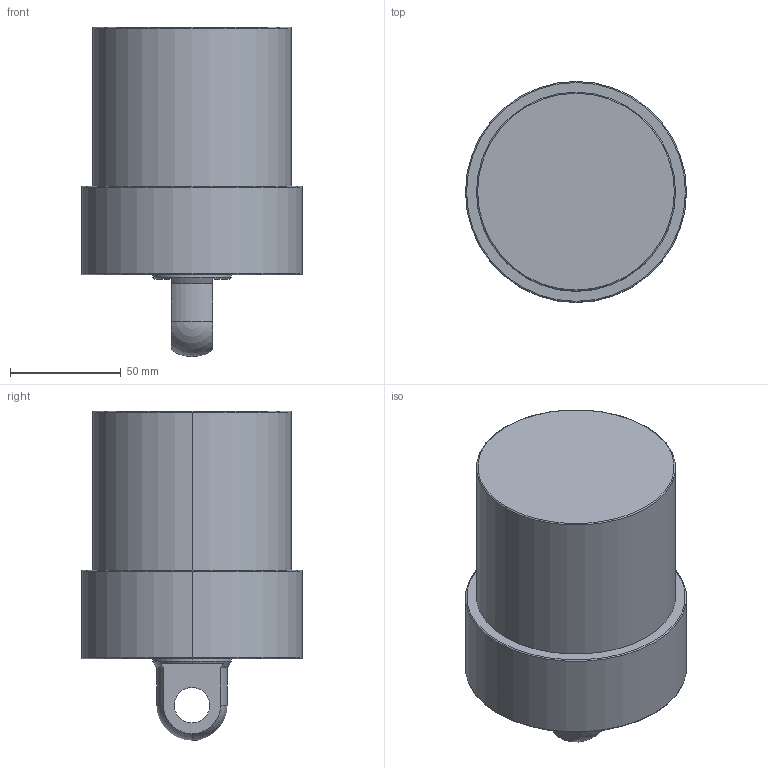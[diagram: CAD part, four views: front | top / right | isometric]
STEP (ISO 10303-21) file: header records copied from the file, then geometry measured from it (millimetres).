
FILE_DESCRIPTION (( 'STEP AP203' ), '1' );
FILE_NAME ('CLLU-090CP-050.STEP', '2020-01-13T03:25:46', ( '' ), ( '' ), 'SwSTEP 2.0', 'SolidWorks 2015', '' );
FILE_SCHEMA (( 'CONFIG_CONTROL_DESIGN' ));
Length unit declared in the file: millimetre
Products named in the file (1): CLLU-090CP-050
Bounding box: 100 x 100 x 149 mm (x, y, z)
Volume: 781887.3 mm3; surface area: 54492.4 mm2
Topology: 1 solids, 1 shells, 57 faces, 134 edges, 77 vertices
Faces by surface type: cylinder 22, cone 18, plane 9, torus 6, sphere 2
Entity records: 1643 total; most frequent: DIRECTION 308, CARTESIAN_POINT 267, ORIENTED_EDGE 244, AXIS2_PLACEMENT_3D 132, EDGE_CURVE 122, VERTEX_POINT 75, CIRCLE 74, EDGE_LOOP 67
